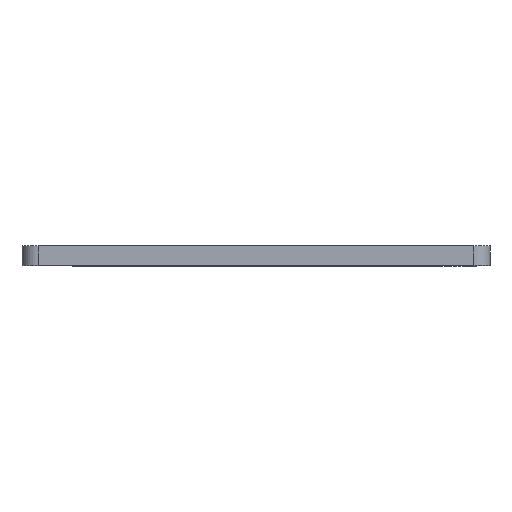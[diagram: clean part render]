
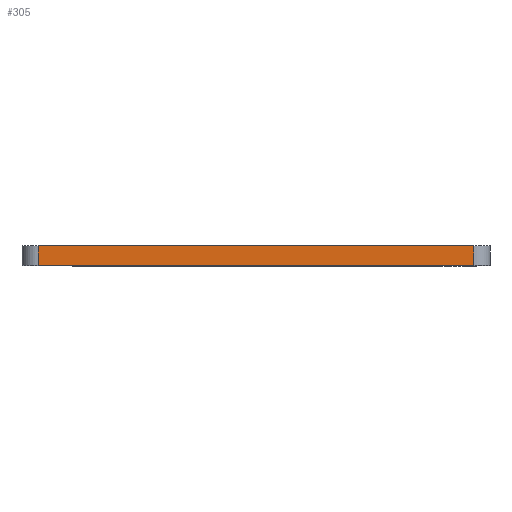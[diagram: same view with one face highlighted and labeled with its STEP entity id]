
A CAD part, top view. The second image highlights one B-rep face of the part: STEP entity #305.
In plain terms, the highlighted planar face has unit normal (0, 0, 1).
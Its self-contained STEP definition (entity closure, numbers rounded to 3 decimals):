
#68 = CARTESIAN_POINT ( 'NONE',  ( 146.372, -1.5, 17.194 ) ) ;
#115 = EDGE_CURVE ( 'NONE', #512, #342, #220, .T. ) ;
#147 = CARTESIAN_POINT ( 'NONE',  ( 146.372, -1.5, 17.194 ) ) ;
#175 = LINE ( 'NONE', #979, #989 ) ;
#195 = ORIENTED_EDGE ( 'NONE', *, *, #758, .T. ) ;
#202 = ORIENTED_EDGE ( 'NONE', *, *, #603, .F. ) ;
#220 = LINE ( 'NONE', #313, #1006 ) ;
#285 = CARTESIAN_POINT ( 'NONE',  ( 235.759, -1.5, 17.194 ) ) ;
#305 = ADVANCED_FACE ( 'NONE', ( #685 ), #353, .T. ) ;
#310 = VECTOR ( 'NONE', #398, 1000. ) ;
#313 = CARTESIAN_POINT ( 'NONE',  ( 235.759, -1.5, 17.194 ) ) ;
#323 = DIRECTION ( 'NONE',  ( 0., 1., 0. ) ) ;
#342 = VERTEX_POINT ( 'NONE', #659 ) ;
#353 = PLANE ( 'NONE',  #672 ) ;
#398 = DIRECTION ( 'NONE',  ( 1., 0., 0. ) ) ;
#438 = VERTEX_POINT ( 'NONE', #528 ) ;
#442 = CARTESIAN_POINT ( 'NONE',  ( 146.372, -1.5, 17.194 ) ) ;
#451 = EDGE_CURVE ( 'NONE', #438, #342, #175, .T. ) ;
#463 = CARTESIAN_POINT ( 'NONE',  ( 146.372, -1.5, 17.194 ) ) ;
#512 = VERTEX_POINT ( 'NONE', #285 ) ;
#519 = DIRECTION ( 'NONE',  ( 1., 0., 0. ) ) ;
#528 = CARTESIAN_POINT ( 'NONE',  ( 146.372, 2.5, 17.194 ) ) ;
#531 = DIRECTION ( 'NONE',  ( 1., 0., 0. ) ) ;
#551 = EDGE_LOOP ( 'NONE', ( #613, #202, #195, #861 ) ) ;
#597 = LINE ( 'NONE', #463, #980 ) ;
#603 = EDGE_CURVE ( 'NONE', #840, #438, #597, .T. ) ;
#613 = ORIENTED_EDGE ( 'NONE', *, *, #451, .F. ) ;
#659 = CARTESIAN_POINT ( 'NONE',  ( 235.759, 2.5, 17.194 ) ) ;
#672 = AXIS2_PLACEMENT_3D ( 'NONE', #442, #975, #519 ) ;
#685 = FACE_OUTER_BOUND ( 'NONE', #551, .T. ) ;
#727 = LINE ( 'NONE', #68, #310 ) ;
#758 = EDGE_CURVE ( 'NONE', #840, #512, #727, .T. ) ;
#840 = VERTEX_POINT ( 'NONE', #147 ) ;
#861 = ORIENTED_EDGE ( 'NONE', *, *, #115, .T. ) ;
#914 = DIRECTION ( 'NONE',  ( 0., 1., 0. ) ) ;
#975 = DIRECTION ( 'NONE',  ( 0., 0., 1. ) ) ;
#979 = CARTESIAN_POINT ( 'NONE',  ( 146.372, 2.5, 17.194 ) ) ;
#980 = VECTOR ( 'NONE', #914, 1000. ) ;
#989 = VECTOR ( 'NONE', #531, 1000. ) ;
#1006 = VECTOR ( 'NONE', #323, 1000. ) ;
